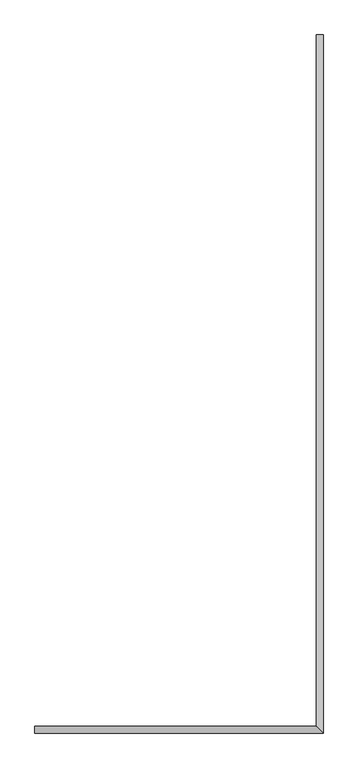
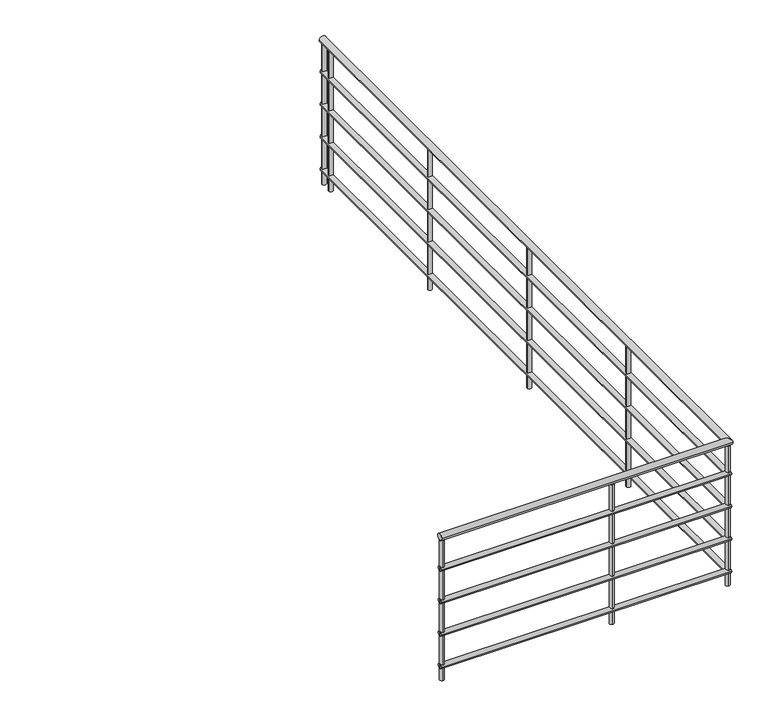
"""IFC4 building model written with IfcOpenShell, lengths in millimetres: railing geometry, 900mm 管."""

from ifc_helpers import new_model, si_unit, point, frame, frame_2d, origin, origin_with_axes, place, context, project, spatial, circle_curve, ellipse_curve, trimmed, segment, composite_curve, outline, extrude, source, transform, mapped, element, save
from ifc_brep_helpers import plane_surface, cylinder_surface, advanced_brep


def railing_043cc620(model_context):
    return source(origin(), model_context, "Body", "SolidModel", [
        advanced_brep(
        [(2952.9445117, -3209.1637817, 880.0), (2952.9445117, -3249.1637817, 880.0), (4607.9445117, -3209.1637817, 880.0), (4647.9445117, -3249.1637817, 880.0), (4607.9445117, 850.8362183, 880.0), (4647.9445117, 850.8362183, 880.0)],
        [
            (0, 1, circle_curve(frame((2952.9445117, -3229.1637817, 880.0), z_axis=(-1.0, 0.0, 0.0), x_axis=(0.0, -1.0, 0.0)), 20.0)),
            (1, 0, circle_curve(frame((2952.9445117, -3229.1637817, 880.0), z_axis=(-1.0, 0.0, 0.0), x_axis=(0.0, -1.0, 0.0)), 20.0)),
            (0, 2),
            (2, 3, ellipse_curve(frame((4627.9445117, -3229.1637817, 880.0), z_axis=(-0.7071067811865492, -0.7071067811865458, 0.0), x_axis=(-0.7071067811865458, 0.7071067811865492, 0.0)), 28.2842712, 20.0)),
            (3, 1),
            (3, 2, ellipse_curve(frame((4627.9445117, -3229.1637817, 880.0), z_axis=(-0.7071067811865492, -0.7071067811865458, 0.0), x_axis=(-0.7071067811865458, 0.7071067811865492, 0.0)), 28.2842712, 20.0)),
            (4, 5, circle_curve(frame((4627.9445117, 850.8362183, 880.0), z_axis=(0.0, 1.0, 0.0), x_axis=(1.0, 0.0, 0.0)), 20.0)),
            (5, 4, circle_curve(frame((4627.9445117, 850.8362183, 880.0), z_axis=(0.0, 1.0, 0.0), x_axis=(1.0, 0.0, 0.0)), 20.0)),
            (2, 4),
            (5, 3),
        ],
        [
            plane_surface(frame((2952.9445117, -3229.1637817, 900.0), z_axis=(-1.0, 0.0, 0.0), x_axis=(0.0, 1.0, 0.0))),
            cylinder_surface(frame((2952.9445117, -3229.1637817, 880.0), z_axis=(-1.0, 0.0, 0.0), x_axis=(0.0, -1.0, 0.0)), 20.0),
            plane_surface(frame((4627.9445117, 850.8362183, 900.0), z_axis=(0.0, 1.0, 0.0), x_axis=(0.0, 0.0, 1.0))),
            cylinder_surface(frame((4627.9445117, -3229.1637817, 880.0), z_axis=(0.0, -1.0, 0.0), x_axis=(1.0, 0.0, 0.0)), 20.0),
        ],
        [
            (0, [[1, 2]]),
            (1, [[-1, 3, 4, 5]]),
            (1, [[-2, -5, 6, -3]]),
            (2, [[7, 8]]),
            (3, [[-4, 9, -8, 10]]),
            (3, [[-6, -10, -7, -9]]),
        ],
    ),
        advanced_brep(
        [(2952.9445117, -3214.1637817, 685.0), (2952.9445117, -3244.1637817, 685.0), (4612.9445117, -3214.1637817, 685.0), (4642.9445117, -3244.1637817, 685.0), (4612.9445117, 850.8362183, 685.0), (4642.9445117, 850.8362183, 685.0)],
        [
            (0, 1, circle_curve(frame((2952.9445117, -3229.1637817, 685.0), z_axis=(-1.0, 0.0, 0.0), x_axis=(0.0, -1.0, 0.0)), 15.0)),
            (1, 0, circle_curve(frame((2952.9445117, -3229.1637817, 685.0), z_axis=(-1.0, 0.0, 0.0), x_axis=(0.0, -1.0, 0.0)), 15.0)),
            (0, 2),
            (2, 3, ellipse_curve(frame((4627.9445117, -3229.1637817, 685.0), z_axis=(-0.7071067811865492, -0.7071067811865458, 0.0), x_axis=(-0.7071067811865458, 0.7071067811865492, 0.0)), 21.2132034, 15.0)),
            (3, 1),
            (3, 2, ellipse_curve(frame((4627.9445117, -3229.1637817, 685.0), z_axis=(-0.7071067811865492, -0.7071067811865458, 0.0), x_axis=(-0.7071067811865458, 0.7071067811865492, 0.0)), 21.2132034, 15.0)),
            (4, 5, circle_curve(frame((4627.9445117, 850.8362183, 685.0), z_axis=(0.0, 1.0, 0.0), x_axis=(1.0, 0.0, 0.0)), 15.0)),
            (5, 4, circle_curve(frame((4627.9445117, 850.8362183, 685.0), z_axis=(0.0, 1.0, 0.0), x_axis=(1.0, 0.0, 0.0)), 15.0)),
            (2, 4),
            (5, 3),
        ],
        [
            plane_surface(frame((2952.9445117, -3229.1637817, 700.0), z_axis=(-1.0, 0.0, 0.0), x_axis=(0.0, 1.0, 0.0))),
            cylinder_surface(frame((2952.9445117, -3229.1637817, 685.0), z_axis=(-1.0, 0.0, 0.0), x_axis=(0.0, -1.0, 0.0)), 15.0),
            plane_surface(frame((4627.9445117, 850.8362183, 700.0), z_axis=(0.0, 1.0, 0.0), x_axis=(0.0, 0.0, 1.0))),
            cylinder_surface(frame((4627.9445117, -3229.1637817, 685.0), z_axis=(0.0, -1.0, 0.0), x_axis=(1.0, 0.0, 0.0)), 15.0),
        ],
        [
            (0, [[1, 2]]),
            (1, [[-1, 3, 4, 5]]),
            (1, [[-2, -5, 6, -3]]),
            (2, [[7, 8]]),
            (3, [[-4, 9, -8, 10]]),
            (3, [[-6, -10, -7, -9]]),
        ],
    ),
        advanced_brep(
        [(2952.9445117, -3214.1637817, 485.0), (2952.9445117, -3244.1637817, 485.0), (4612.9445117, -3214.1637817, 485.0), (4642.9445117, -3244.1637817, 485.0), (4612.9445117, 850.8362183, 485.0), (4642.9445117, 850.8362183, 485.0)],
        [
            (0, 1, circle_curve(frame((2952.9445117, -3229.1637817, 485.0), z_axis=(-1.0, 0.0, 0.0), x_axis=(0.0, -1.0, 0.0)), 15.0)),
            (1, 0, circle_curve(frame((2952.9445117, -3229.1637817, 485.0), z_axis=(-1.0, 0.0, 0.0), x_axis=(0.0, -1.0, 0.0)), 15.0)),
            (0, 2),
            (2, 3, ellipse_curve(frame((4627.9445117, -3229.1637817, 485.0), z_axis=(-0.7071067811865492, -0.7071067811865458, 0.0), x_axis=(-0.7071067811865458, 0.7071067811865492, 0.0)), 21.2132034, 15.0)),
            (3, 1),
            (3, 2, ellipse_curve(frame((4627.9445117, -3229.1637817, 485.0), z_axis=(-0.7071067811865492, -0.7071067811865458, 0.0), x_axis=(-0.7071067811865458, 0.7071067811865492, 0.0)), 21.2132034, 15.0)),
            (4, 5, circle_curve(frame((4627.9445117, 850.8362183, 485.0), z_axis=(0.0, 1.0, 0.0), x_axis=(1.0, 0.0, 0.0)), 15.0)),
            (5, 4, circle_curve(frame((4627.9445117, 850.8362183, 485.0), z_axis=(0.0, 1.0, 0.0), x_axis=(1.0, 0.0, 0.0)), 15.0)),
            (2, 4),
            (5, 3),
        ],
        [
            plane_surface(frame((2952.9445117, -3229.1637817, 500.0), z_axis=(-1.0, 0.0, 0.0), x_axis=(0.0, 1.0, 0.0))),
            cylinder_surface(frame((2952.9445117, -3229.1637817, 485.0), z_axis=(-1.0, 0.0, 0.0), x_axis=(0.0, -1.0, 0.0)), 15.0),
            plane_surface(frame((4627.9445117, 850.8362183, 500.0), z_axis=(0.0, 1.0, 0.0), x_axis=(0.0, 0.0, 1.0))),
            cylinder_surface(frame((4627.9445117, -3229.1637817, 485.0), z_axis=(0.0, -1.0, 0.0), x_axis=(1.0, 0.0, 0.0)), 15.0),
        ],
        [
            (0, [[1, 2]]),
            (1, [[-1, 3, 4, 5]]),
            (1, [[-2, -5, 6, -3]]),
            (2, [[7, 8]]),
            (3, [[-4, 9, -8, 10]]),
            (3, [[-6, -10, -7, -9]]),
        ],
    ),
        advanced_brep(
        [(2952.9445117, -3214.1637817, 285.0), (2952.9445117, -3244.1637817, 285.0), (4612.9445117, -3214.1637817, 285.0), (4642.9445117, -3244.1637817, 285.0), (4612.9445117, 850.8362183, 285.0), (4642.9445117, 850.8362183, 285.0)],
        [
            (0, 1, circle_curve(frame((2952.9445117, -3229.1637817, 285.0), z_axis=(-1.0, 0.0, 0.0), x_axis=(0.0, -1.0, 0.0)), 15.0)),
            (1, 0, circle_curve(frame((2952.9445117, -3229.1637817, 285.0), z_axis=(-1.0, 0.0, 0.0), x_axis=(0.0, -1.0, 0.0)), 15.0)),
            (0, 2),
            (2, 3, ellipse_curve(frame((4627.9445117, -3229.1637817, 285.0), z_axis=(-0.7071067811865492, -0.7071067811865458, 0.0), x_axis=(-0.7071067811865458, 0.7071067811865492, 0.0)), 21.2132034, 15.0)),
            (3, 1),
            (3, 2, ellipse_curve(frame((4627.9445117, -3229.1637817, 285.0), z_axis=(-0.7071067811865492, -0.7071067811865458, 0.0), x_axis=(-0.7071067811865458, 0.7071067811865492, 0.0)), 21.2132034, 15.0)),
            (4, 5, circle_curve(frame((4627.9445117, 850.8362183, 285.0), z_axis=(0.0, 1.0, 0.0), x_axis=(1.0, 0.0, 0.0)), 15.0)),
            (5, 4, circle_curve(frame((4627.9445117, 850.8362183, 285.0), z_axis=(0.0, 1.0, 0.0), x_axis=(1.0, 0.0, 0.0)), 15.0)),
            (2, 4),
            (5, 3),
        ],
        [
            plane_surface(frame((2952.9445117, -3229.1637817, 300.0), z_axis=(-1.0, 0.0, 0.0), x_axis=(0.0, 1.0, 0.0))),
            cylinder_surface(frame((2952.9445117, -3229.1637817, 285.0), z_axis=(-1.0, 0.0, 0.0), x_axis=(0.0, -1.0, 0.0)), 15.0),
            plane_surface(frame((4627.9445117, 850.8362183, 300.0), z_axis=(0.0, 1.0, 0.0), x_axis=(0.0, 0.0, 1.0))),
            cylinder_surface(frame((4627.9445117, -3229.1637817, 285.0), z_axis=(0.0, -1.0, 0.0), x_axis=(1.0, 0.0, 0.0)), 15.0),
        ],
        [
            (0, [[1, 2]]),
            (1, [[-1, 3, 4, 5]]),
            (1, [[-2, -5, 6, -3]]),
            (2, [[7, 8]]),
            (3, [[-4, 9, -8, 10]]),
            (3, [[-6, -10, -7, -9]]),
        ],
    ),
        advanced_brep(
        [(2952.9445117, -3214.1637817, 85.0), (2952.9445117, -3244.1637817, 85.0), (4612.9445117, -3214.1637817, 85.0), (4642.9445117, -3244.1637817, 85.0), (4612.9445117, 850.8362183, 85.0), (4642.9445117, 850.8362183, 85.0)],
        [
            (0, 1, circle_curve(frame((2952.9445117, -3229.1637817, 85.0), z_axis=(-1.0, 0.0, 0.0), x_axis=(0.0, -1.0, 0.0)), 15.0)),
            (1, 0, circle_curve(frame((2952.9445117, -3229.1637817, 85.0), z_axis=(-1.0, 0.0, 0.0), x_axis=(0.0, -1.0, 0.0)), 15.0)),
            (0, 2),
            (2, 3, ellipse_curve(frame((4627.9445117, -3229.1637817, 85.0), z_axis=(-0.7071067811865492, -0.7071067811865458, 0.0), x_axis=(-0.7071067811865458, 0.7071067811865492, 0.0)), 21.2132034, 15.0)),
            (3, 1),
            (3, 2, ellipse_curve(frame((4627.9445117, -3229.1637817, 85.0), z_axis=(-0.7071067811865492, -0.7071067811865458, 0.0), x_axis=(-0.7071067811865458, 0.7071067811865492, 0.0)), 21.2132034, 15.0)),
            (4, 5, circle_curve(frame((4627.9445117, 850.8362183, 85.0), z_axis=(0.0, 1.0, 0.0), x_axis=(1.0, 0.0, 0.0)), 15.0)),
            (5, 4, circle_curve(frame((4627.9445117, 850.8362183, 85.0), z_axis=(0.0, 1.0, 0.0), x_axis=(1.0, 0.0, 0.0)), 15.0)),
            (2, 4),
            (5, 3),
        ],
        [
            plane_surface(frame((2952.9445117, -3229.1637817, 100.0), z_axis=(-1.0, 0.0, 0.0), x_axis=(0.0, 1.0, 0.0))),
            cylinder_surface(frame((2952.9445117, -3229.1637817, 85.0), z_axis=(-1.0, 0.0, 0.0), x_axis=(0.0, -1.0, 0.0)), 15.0),
            plane_surface(frame((4627.9445117, 850.8362183, 100.0), z_axis=(0.0, 1.0, 0.0), x_axis=(0.0, 0.0, 1.0))),
            cylinder_surface(frame((4627.9445117, -3229.1637817, 85.0), z_axis=(0.0, -1.0, 0.0), x_axis=(1.0, 0.0, 0.0)), 15.0),
        ],
        [
            (0, [[1, 2]]),
            (1, [[-1, 3, 4, 5]]),
            (1, [[-2, -5, 6, -3]]),
            (2, [[7, 8]]),
            (3, [[-4, 9, -8, 10]]),
            (3, [[-6, -10, -7, -9]]),
        ],
    ),
        extrude(outline(composite_curve([segment(trimmed(circle_curve(frame_2d((4627.9445117, 770.8362183)), 12.5), [point((4615.4445117, 770.8362183))], [point((4640.4445117, 770.8362183))], False, "CARTESIAN"), True, "CONTINUOUS"), segment(trimmed(circle_curve(frame_2d((4627.9445117, 770.8362183)), 12.5), [point((4640.4445117, 770.8362183))], [point((4615.4445117, 770.8362183))], False, "CARTESIAN"), True, "CONTINUOUS")], self_intersect=False)), origin_with_axes(), (0.0, 0.0, 1.0), 860.0),
        extrude(outline(composite_curve([segment(trimmed(circle_curve(frame_2d((4627.9445117, -229.1637817)), 12.5), [point((4615.4445117, -229.1637817))], [point((4640.4445117, -229.1637817))], False, "CARTESIAN"), True, "CONTINUOUS"), segment(trimmed(circle_curve(frame_2d((4627.9445117, -229.1637817)), 12.5), [point((4640.4445117, -229.1637817))], [point((4615.4445117, -229.1637817))], False, "CARTESIAN"), True, "CONTINUOUS")], self_intersect=False)), origin_with_axes(), (0.0, 0.0, 1.0), 860.0),
        extrude(outline(composite_curve([segment(trimmed(circle_curve(frame_2d((4627.9445117, -1229.1637817)), 12.5), [point((4615.4445117, -1229.1637817))], [point((4640.4445117, -1229.1637817))], False, "CARTESIAN"), True, "CONTINUOUS"), segment(trimmed(circle_curve(frame_2d((4627.9445117, -1229.1637817)), 12.5), [point((4640.4445117, -1229.1637817))], [point((4615.4445117, -1229.1637817))], False, "CARTESIAN"), True, "CONTINUOUS")], self_intersect=False)), origin_with_axes(), (0.0, 0.0, 1.0), 860.0),
        extrude(outline(composite_curve([segment(trimmed(circle_curve(frame_2d((4627.9445117, -2229.1637817)), 12.5), [point((4615.4445117, -2229.1637817))], [point((4640.4445117, -2229.1637817))], False, "CARTESIAN"), True, "CONTINUOUS"), segment(trimmed(circle_curve(frame_2d((4627.9445117, -2229.1637817)), 12.5), [point((4640.4445117, -2229.1637817))], [point((4615.4445117, -2229.1637817))], False, "CARTESIAN"), True, "CONTINUOUS")], self_intersect=False)), origin_with_axes(), (0.0, 0.0, 1.0), 860.0),
        extrude(outline(composite_curve([segment(trimmed(circle_curve(frame_2d((3952.9445117, -3229.1637817)), 12.5), [point((3952.9445117, -3216.6637817))], [point((3952.9445117, -3241.6637817))], False, "CARTESIAN"), True, "CONTINUOUS"), segment(trimmed(circle_curve(frame_2d((3952.9445117, -3229.1637817)), 12.5), [point((3952.9445117, -3241.6637817))], [point((3952.9445117, -3216.6637817))], False, "CARTESIAN"), True, "CONTINUOUS")], self_intersect=False)), origin_with_axes(), (0.0, 0.0, 1.0), 860.0),
        extrude(outline(composite_curve([segment(trimmed(circle_curve(frame_2d((4627.9445117, -3229.1637817)), 12.5), [point((4627.9445117, -3216.6637817))], [point((4627.9445117, -3241.6637817))], False, "CARTESIAN"), True, "CONTINUOUS"), segment(trimmed(circle_curve(frame_2d((4627.9445117, -3229.1637817)), 12.5), [point((4627.9445117, -3241.6637817))], [point((4627.9445117, -3216.6637817))], False, "CARTESIAN"), True, "CONTINUOUS")], self_intersect=False)), origin_with_axes(), (0.0, 0.0, 1.0), 860.0),
        extrude(outline(composite_curve([segment(trimmed(circle_curve(frame_2d((4627.9445117, 838.3362183)), 12.5), [point((4615.4445117, 838.3362183))], [point((4640.4445117, 838.3362183))], False, "CARTESIAN"), True, "CONTINUOUS"), segment(trimmed(circle_curve(frame_2d((4627.9445117, 838.3362183)), 12.5), [point((4640.4445117, 838.3362183))], [point((4615.4445117, 838.3362183))], False, "CARTESIAN"), True, "CONTINUOUS")], self_intersect=False)), origin_with_axes(), (0.0, 0.0, 1.0), 860.0),
        extrude(outline(composite_curve([segment(trimmed(circle_curve(frame_2d((2965.4445117, -3229.1637817)), 12.5), [point((2965.4445117, -3216.6637817))], [point((2965.4445117, -3241.6637817))], False, "CARTESIAN"), True, "CONTINUOUS"), segment(trimmed(circle_curve(frame_2d((2965.4445117, -3229.1637817)), 12.5), [point((2965.4445117, -3241.6637817))], [point((2965.4445117, -3216.6637817))], False, "CARTESIAN"), True, "CONTINUOUS")], self_intersect=False)), origin_with_axes(), (0.0, 0.0, 1.0), 860.0),
    ])


if __name__ == "__main__":
    model = new_model("IFC4")
    model_context = context("Model", 3, world=origin())
    ifc_project = project(units=[si_unit("LENGTHUNIT", "METRE", prefix="MILLI")], contexts=[model_context])
    site = spatial("IfcSite", under=ifc_project)
    building = spatial("IfcBuilding", under=site)
    placement = place(None, origin())
    railing_shape = railing_043cc620(model_context)
    element("IfcRailing", 1, ObjectType="900mm 管", at=placement, inside=building, context=model_context, shape_type="MappedRepresentation", body=[
        mapped(railing_shape, transform((0.0, 0.0, 0.0), x_axis=(1.0, 0.0, 0.0), y_axis=(0.0, 1.0, 0.0), z_axis=(0.0, 0.0, 1.0))),
    ])
    save(model, "model.ifc")
